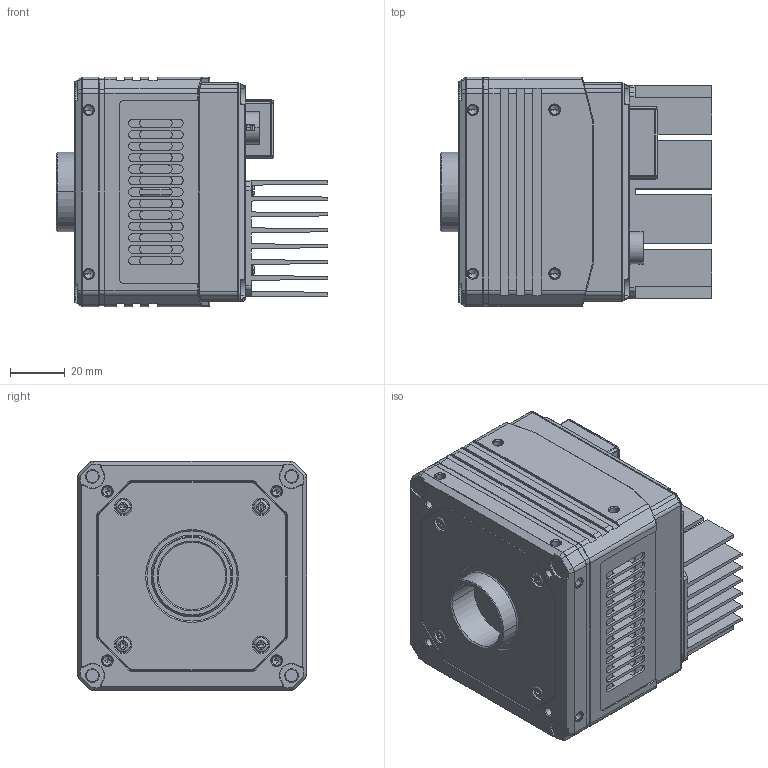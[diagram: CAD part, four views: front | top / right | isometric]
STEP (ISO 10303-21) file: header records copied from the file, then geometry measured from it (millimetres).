
FILE_DESCRIPTION((''),'2;1');
FILE_NAME('MV-CH240-10TM-NN_ASM_ASM','2021-06-15T18:36:08',('wangyijun6'),(''),'CREO PARAMETRIC BY PTC INC, 2017260','CREO PARAMETRIC BY PTC INC, 2017260','');
FILE_SCHEMA(('CONFIG_CONTROL_DESIGN'));
Products named in the file (1): MV-CH240-10TM-NN_ASM_ASM
Bounding box: 99.23 x 84 x 84 mm (x, y, z)
Volume: 435491.7 mm3; surface area: 116438.3 mm2
Topology: 1 solids, 50 shells, 3684 faces, 9688 edges, 6132 vertices
Faces by surface type: plane 1862, cylinder 1080, cone 451, extrusion 107, torus 88, bspline 86, sphere 10
Entity records: 122321 total; most frequent: CARTESIAN_POINT 31712, ORIENTED_EDGE 19076, DIRECTION 18562, EDGE_CURVE 9592, AXIS2_PLACEMENT_3D 6295, VERTEX_POINT 6132, VECTOR 5972, LINE 5865
